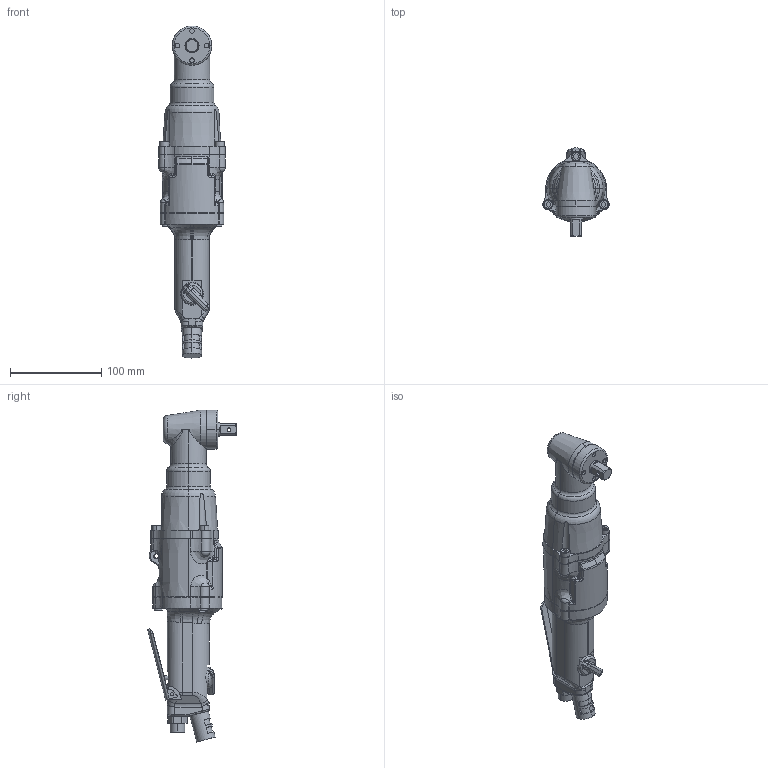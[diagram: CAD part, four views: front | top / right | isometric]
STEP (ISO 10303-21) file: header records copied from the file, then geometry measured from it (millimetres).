
FILE_DESCRIPTION (( 'STEP AP203' ), '1' );
FILE_NAME ('UX-1000C.STEP', '2007-04-20T06:02:11', ( ' ' ), ( ' ' ), 'SwSTEP 2.0', 'SolidWorks 2003240', '' );
FILE_SCHEMA (( 'CONFIG_CONTROL_DESIGN' ));
Length unit declared in the file: millimetre
Products named in the file (9): 0334301_UX-1000C_蹬怮椔; PIN_UX-1000C_蹬怮椔; 5001071_UX-1000C_蹬怮椔; UX-1000C; 1994887_UX-1000C_蹬怮椔; 1794418_UX-1000C_蹬怮椔; 1800258_UX-1000C_蹬怮椔; 1800118_UX-1000C_蹬怮椔; 1802127_UX-1000C_蹬怮椔
Assembly tree (8 placements, depth 2):
  UX-1000C
    PIN_UX-1000C_蹬怮椔
    1800118_UX-1000C_蹬怮椔
    1994887_UX-1000C_蹬怮椔
    1794418_UX-1000C_蹬怮椔
    1800258_UX-1000C_蹬怮椔
    5001071_UX-1000C_蹬怮椔
    1802127_UX-1000C_蹬怮椔
    0334301_UX-1000C_蹬怮椔
Bounding box: 72.62 x 97.19 x 363.57 mm (x, y, z)
Volume: 780019.3 mm3; surface area: 95324.4 mm2
Topology: 8 solids, 8 shells, 994 faces, 2577 edges, 1651 vertices
Faces by surface type: plane 362, cylinder 296, bspline 243, cone 50, torus 39, sphere 4
Entity records: 113722 total; most frequent: CARTESIAN_POINT 90912, ORIENTED_EDGE 5126, DIRECTION 3735, EDGE_CURVE 2563, VERTEX_POINT 1651, AXIS2_PLACEMENT_3D 1435, EDGE_LOOP 1070, ADVANCED_FACE 994
